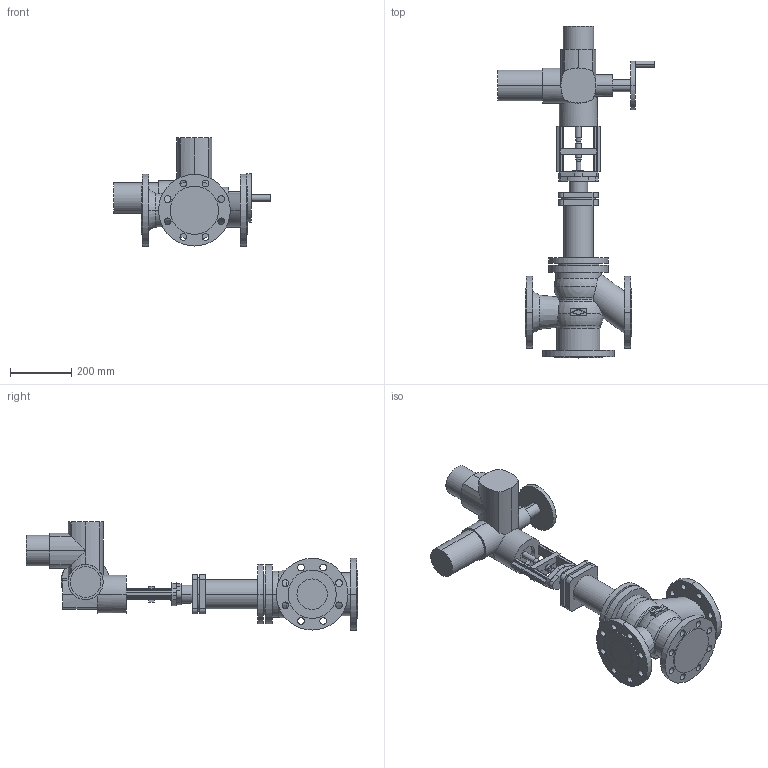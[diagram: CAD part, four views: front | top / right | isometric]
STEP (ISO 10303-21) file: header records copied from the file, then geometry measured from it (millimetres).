
FILE_DESCRIPTION(('OneSpaceDesigner STEP Export'),'2;1');
FILE_NAME('c000003206.stp','2007-01-25T11:58:28',(''),(''),'OneSpace Designer STEP processor for AP214 (Solid Model)','OneSpace Designer 14.00B 27-May-2006 (C) CoCreate Software GmbH','');
FILE_SCHEMA(('AUTOMOTIVE_DESIGN { 1 0 10303 214 1 1 1 1 }'));
Length unit declared in the file: millimetre
Products named in the file (2): 1; 2
Bounding box: 514 x 1087.7 x 354.5 mm (x, y, z)
Volume: 21055491.7 mm3; surface area: 1132009.4 mm2
Topology: 2 solids, 2 shells, 356 faces, 923 edges, 589 vertices
Faces by surface type: cylinder 180, plane 154, torus 10, cone 8, sphere 4
Entity records: 10324 total; most frequent: CARTESIAN_POINT 2193, ORIENTED_EDGE 1838, DIRECTION 1506, EDGE_CURVE 919, VERTEX_POINT 589, AXIS2_PLACEMENT_3D 522, VECTOR 462, LINE 462
